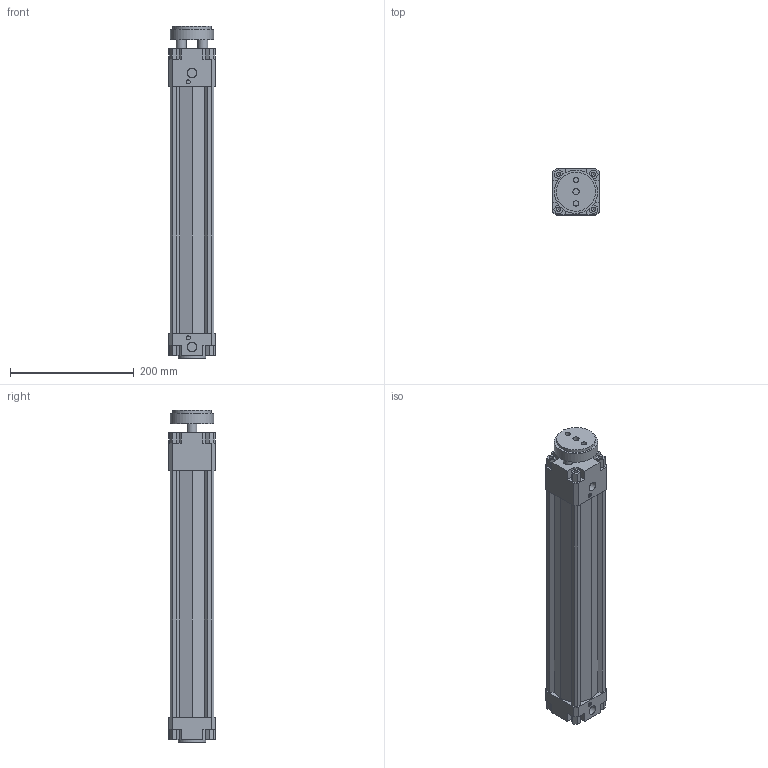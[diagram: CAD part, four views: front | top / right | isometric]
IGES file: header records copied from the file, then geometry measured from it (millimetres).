
Global section: file name: 134#_063_0350_01; native system: Autodesk Inventor 2014; preprocessor: unknown; author: A. Manieri; date: 20161006.165137; units: millimetre
Bounding box: 75 x 75 x 537 mm (x, y, z)
Volume: 1388540.6 mm3; surface area: 333287.9 mm2
Topology: 2 solids, 2 shells, 180 faces, 491 edges, 335 vertices
Faces by surface type: bspline 180
